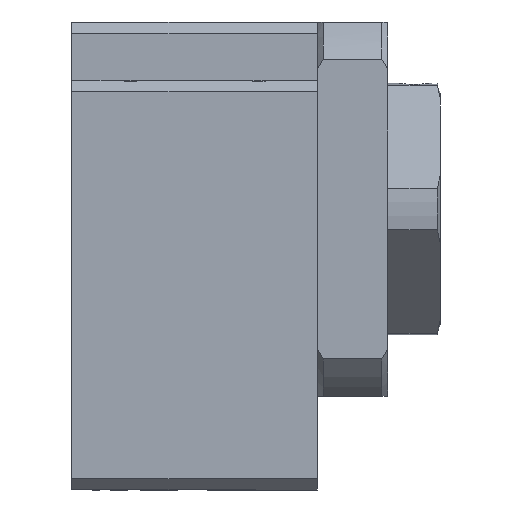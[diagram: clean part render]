
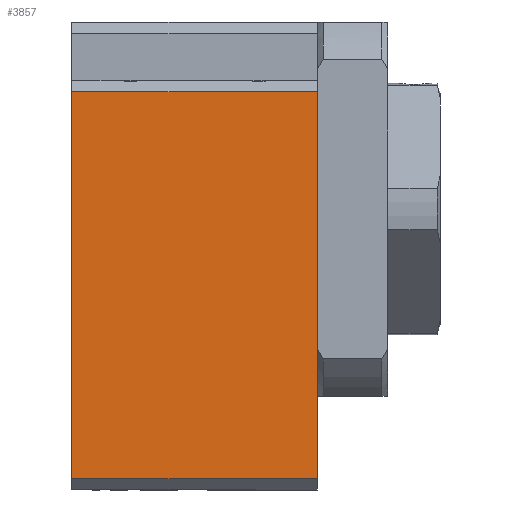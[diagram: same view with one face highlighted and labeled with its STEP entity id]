
A CAD part, left-side view. The second image highlights one B-rep face of the part: STEP entity #3857.
In plain terms, the highlighted free-form (B-spline) face has degree [1, 1] with [2, 2] control points.
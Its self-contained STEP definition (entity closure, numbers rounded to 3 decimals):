
#3197=CARTESIAN_POINT('',(-53.,20.08,-42.));
#3198=VERTEX_POINT('',#3197);
#3204=CARTESIAN_POINT('',(-53.,20.08,0.));
#3205=VERTEX_POINT('',#3204);
#3206=CARTESIAN_POINT('',(-53.,20.08,-42.));
#3207=CARTESIAN_POINT('',(-53.,20.08,0.));
#3208=B_SPLINE_CURVE_WITH_KNOTS('',1,(#3206,#3207),.POLYLINE_FORM.,.F.,.U.,(2,2),(0.,1.),.UNSPECIFIED.);
#3209=EDGE_CURVE('',#3198,#3205,#3208,.T.);
#3693=CARTESIAN_POINT('',(-53.,-46.08,0.));
#3694=VERTEX_POINT('',#3693);
#3700=CARTESIAN_POINT('',(-53.,-46.08,-42.));
#3701=VERTEX_POINT('',#3700);
#3702=CARTESIAN_POINT('',(-53.,-46.08,0.));
#3703=CARTESIAN_POINT('',(-53.,-46.08,-42.));
#3704=B_SPLINE_CURVE_WITH_KNOTS('',1,(#3702,#3703),.POLYLINE_FORM.,.F.,.U.,(2,2),(0.,1.),.UNSPECIFIED.);
#3705=EDGE_CURVE('',#3694,#3701,#3704,.T.);
#3838=CARTESIAN_POINT('',(-53.,-97.468,-159.548));
#3839=CARTESIAN_POINT('',(-53.,137.628,-159.548));
#3840=CARTESIAN_POINT('',(-53.,-97.468,75.548));
#3841=CARTESIAN_POINT('',(-53.,137.628,75.548));
#3842=B_SPLINE_SURFACE_WITH_KNOTS('',1,1,((#3838,#3839),(#3840,#3841)),.PLANE_SURF.,.F.,.F.,.U.,(2,2),(2,2),(0.,1.),(0.,1.),.UNSPECIFIED.);
#3843=CARTESIAN_POINT('',(-53.,20.08,0.));
#3844=CARTESIAN_POINT('',(-53.,-46.08,0.));
#3845=B_SPLINE_CURVE_WITH_KNOTS('',1,(#3843,#3844),.POLYLINE_FORM.,.F.,.U.,(2,2),(0.,1.),.UNSPECIFIED.);
#3846=EDGE_CURVE('',#3205,#3694,#3845,.T.);
#3847=ORIENTED_EDGE('',*,*,#3846,.F.);
#3848=ORIENTED_EDGE('',*,*,#3209,.F.);
#3849=CARTESIAN_POINT('',(-53.,-46.08,-42.));
#3850=CARTESIAN_POINT('',(-53.,20.08,-42.));
#3851=B_SPLINE_CURVE_WITH_KNOTS('',1,(#3849,#3850),.POLYLINE_FORM.,.F.,.U.,(2,2),(0.,1.),.UNSPECIFIED.);
#3852=EDGE_CURVE('',#3701,#3198,#3851,.T.);
#3853=ORIENTED_EDGE('',*,*,#3852,.F.);
#3854=ORIENTED_EDGE('',*,*,#3705,.F.);
#3855=EDGE_LOOP('',(#3847,#3848,#3853,#3854));
#3856=FACE_OUTER_BOUND('',#3855,.T.);
#3857=ADVANCED_FACE('',(#3856),#3842,.T.);
